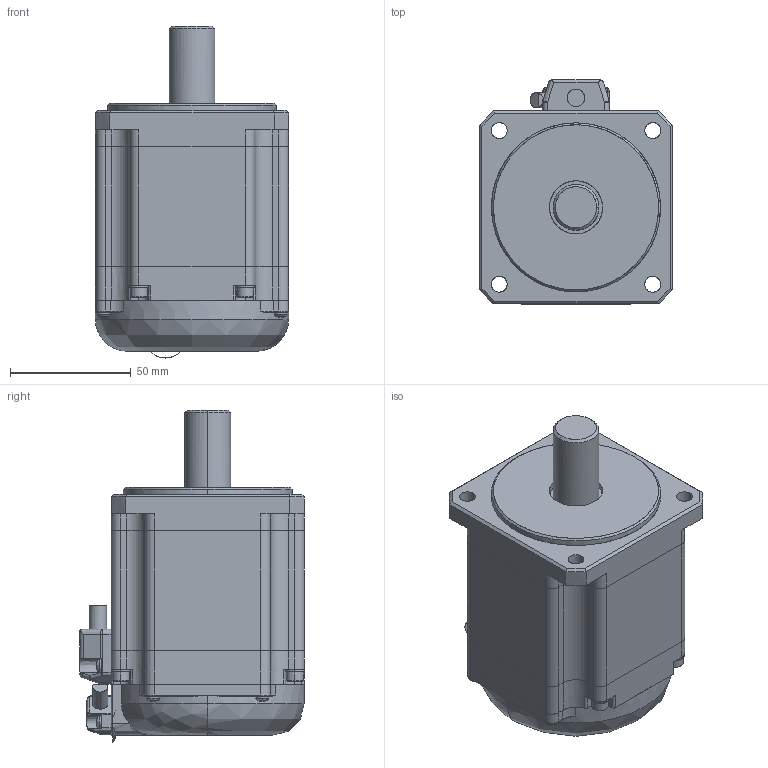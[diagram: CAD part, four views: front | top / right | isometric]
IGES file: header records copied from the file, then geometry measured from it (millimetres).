
Start section: SolidWorks IGES file using analytic representation for surfaces
Global section: file name: C:\Users\render\Documents\CAD Files\TamagawaMotors\TBL-iII-Series-14.5~80\TS4613\TS4613.IGS; native system: SolidWorks 2009; preprocessor: SolidWorks 2009; author: render; date: 100806.102251; units: millimetre
Bounding box: 80 x 93 x 137.54 mm (x, y, z)
Surface area: 80045.7 mm2 (no closed solid volume)
Topology: 0 solids, 0 shells, 632 faces, 5329 edges, 5308 vertices
Faces by surface type: bspline 355, revolution 277
